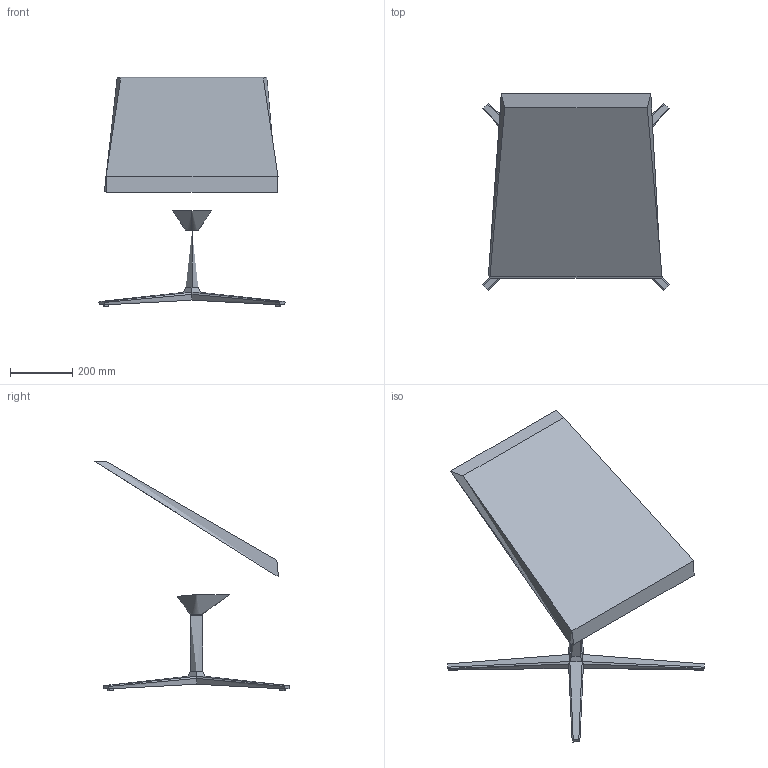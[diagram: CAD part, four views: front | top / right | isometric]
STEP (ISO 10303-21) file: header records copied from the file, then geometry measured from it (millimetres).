
FILE_DESCRIPTION(/* description */ (''),/* implementation_level */ '2;1');
FILE_NAME(/* name */ 'SKYS-F~1',/* time_stamp */ '2017-05-03T16:33:30+02:00',/* author */ (''),/* organization */ (''),/* preprocessor_version */ 'ST-DEVELOPER v15',/* originating_system */ '',/* authorisation */ '');
FILE_SCHEMA (('CONFIG_CONTROL_DESIGN'));
Length unit declared in the file: millimetre
Products named in the file (1): Document
Bounding box: 597.58 x 626.64 x 735.25 mm (x, y, z)
Volume: 36384514.3 mm3; surface area: 1298245.7 mm2
Topology: 5 solids, 8 shells, 71 faces, 154 edges, 95 vertices
Faces by surface type: bspline 45, plane 26
Entity records: 17117 total; most frequent: CARTESIAN_POINT 16105, ORIENTED_EDGE 293, EDGE_CURVE 151, VERTEX_POINT 93, EDGE_LOOP 72, ADVANCED_FACE 71, FACE_OUTER_BOUND 71, B_SPLINE_CURVE_WITH_KNOTS 57
